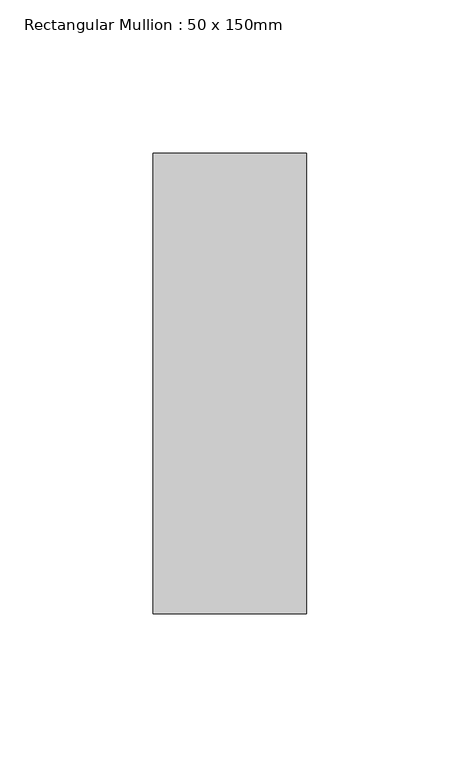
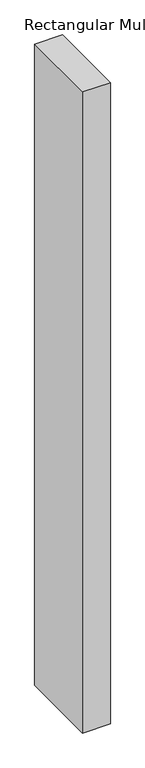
"""IFC4 building model written with IfcOpenShell, lengths in millimetres: member geometry, Rectangular Mullion : 50 x 150mm."""

from ifc_helpers import new_model, si_unit, frame, origin, place, context, project, spatial, polyline, outline, extrude, source, transform, mapped, element, save


def rectangular_mullion_50_x_150mm_11a594ce(model_context):
    return source(origin(), model_context, "Body", "SweptSolid", [
        extrude(outline(polyline([(25.0, 75.0), (25.0, -75.0), (-25.0, -75.0), (-25.0, 75.0), (25.0, 75.0)])), frame((0.0, 0.0, -1224.8468786), z_axis=(0.0, 0.0, 1.0), x_axis=(1.0, 0.0, 0.0)), (0.0, 0.0, 1.0), 1224.8468786),
    ])


if __name__ == "__main__":
    model = new_model("IFC4")
    model_context = context("Model", 3, world=origin())
    ifc_project = project(units=[si_unit("LENGTHUNIT", "METRE", prefix="MILLI")], contexts=[model_context])
    site = spatial("IfcSite", under=ifc_project)
    building = spatial("IfcBuilding", under=site)
    placement = place(None, origin())
    rectangular_mullion_50_x_150mm_shape = rectangular_mullion_50_x_150mm_11a594ce(model_context)
    element("IfcMember", 1, ObjectType="Rectangular Mullion : 50 x 150mm", at=placement, inside=building, context=model_context, shape_type="MappedRepresentation", body=[
        mapped(rectangular_mullion_50_x_150mm_shape, transform((0.0, 0.0, 0.0), x_axis=(1.0, 0.0, 0.0), y_axis=(0.0, 1.0, 0.0), z_axis=(0.0, 0.0, 1.0))),
    ])
    save(model, "model.ifc")
